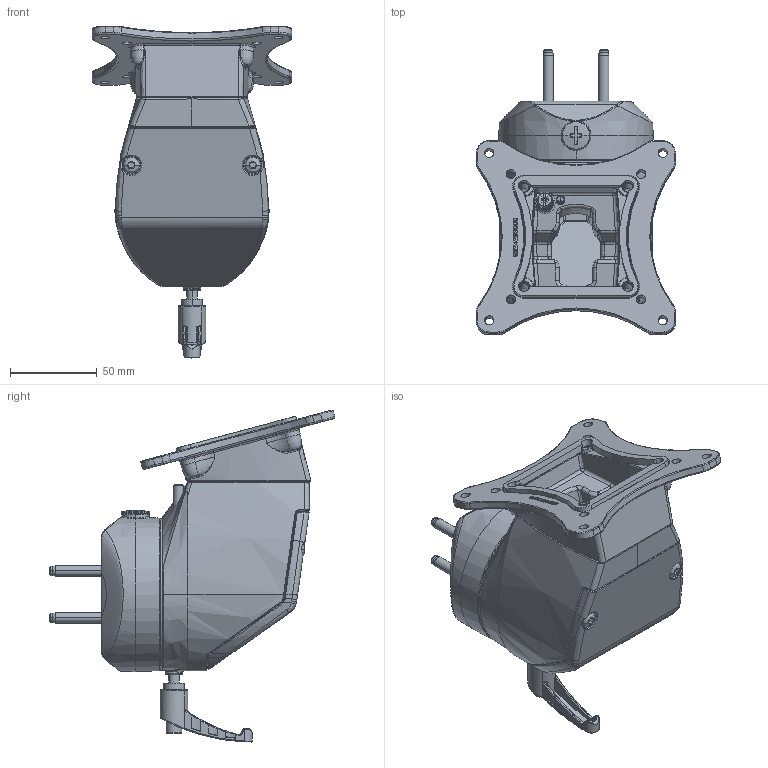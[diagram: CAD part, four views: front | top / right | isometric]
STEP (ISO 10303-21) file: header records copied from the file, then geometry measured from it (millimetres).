
FILE_DESCRIPTION((''),'2;1');
FILE_NAME('1015500011_ASM','2024-03-20T14:30:23',('dirk.bredemeier'),(''),'CREO PARAMETRIC BY PTC INC, 2022124','CREO PARAMETRIC BY PTC INC, 2022124','');
FILE_SCHEMA(('AUTOMOTIVE_DESIGN { 1 0 10303 214 1 1 1 1 }'));
Products named in the file (29): 9324253000_AF0; 9261441000; 9620501000_ASM; 9641000001_ASM; 9371087000; 9324258000_AF0; 9620506000_ASM; 9641000006_ASM; 9231840000_AF3; 9411111000_VG00290; 9371088000; 9502395000; 9263051000; 9432510000; 9231841000; 9324263000_AF1; 9620512000_ASM; 9641000012_ASM; 9261635000; 9324259000_AF0; 9620507000_ASM; 9641000007_DICHTUNG; 9641000007_ASM; 9261654000; 9222005000; 9251096000; 9261655000; 9231843000; 1015500011_ASM
Assembly tree (39 placements, depth 4):
  1015500011_ASM
    9641000001_ASM
      9620501000_ASM
        9324253000_AF0
        9261441000
    9371087000
    9641000006_ASM
      9620506000_ASM
        9324258000_AF0
        9261441000
    9231840000_AF3
    9411111000_VG00290
    9371088000
    9502395000
    9263051000
    9432510000
    9231841000  x2
    9641000012_ASM
      9620512000_ASM
        9324263000_AF1
        9261441000
    9261635000  x4
    9641000007_ASM
      9620507000_ASM
        9324259000_AF0
        9261441000
      9641000007_DICHTUNG
    9261654000  x2
    9222005000
    9251096000
    9261655000  x4
    9231843000
Bounding box: 114.96 x 164.85 x 191.43 mm (x, y, z)
Volume: 506067.2 mm3; surface area: 206384.4 mm2
Topology: 31 solids, 31 shells, 4960 faces, 12645 edges, 7846 vertices
Faces by surface type: plane 2307, bspline 1189, cylinder 604, cone 432, torus 365, sphere 43, revolution 12, extrusion 8
Entity records: 258713 total; most frequent: CARTESIAN_POINT 94229, ORIENTED_EDGE 22934, DIRECTION 18432, PRESENTATION_STYLE_ASSIGNMENT 15321, STYLED_ITEM 15241, CURVE_STYLE 11487, EDGE_CURVE 11467, VERTEX_POINT 7112
